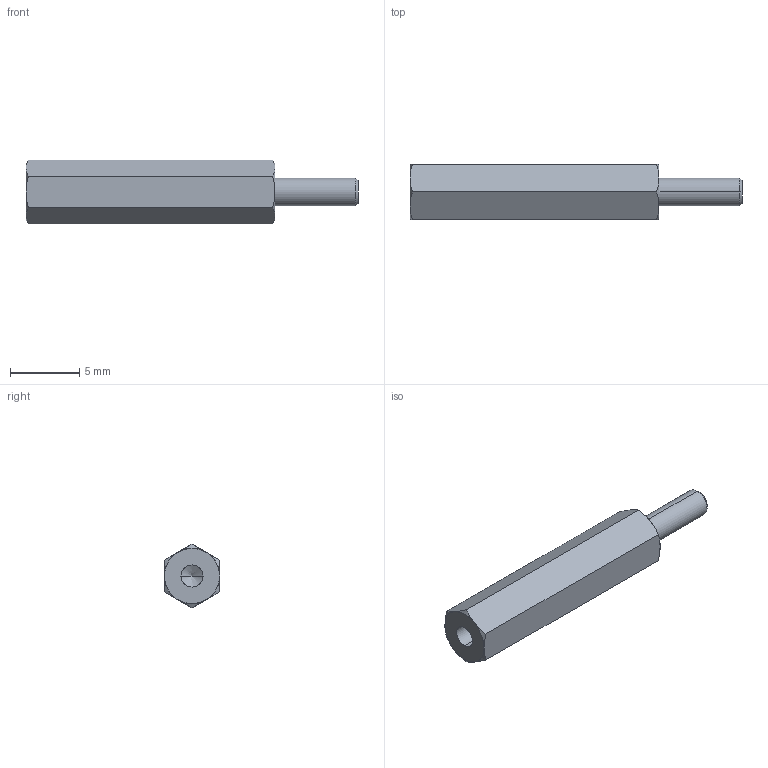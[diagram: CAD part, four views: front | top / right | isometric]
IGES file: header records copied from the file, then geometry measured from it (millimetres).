
Start section: SolidWorks IGES file using analytic representation for surfaces
Global section: file name: C:\Users\render1\Desktop\P0185_IGES\P0185.02-18.igs; native system: SolidWorks 2009; preprocessor: SolidWorks 2009; author: render1; date: 130627.111328; units: millimetre
Bounding box: 24 x 4 x 4.62 mm (x, y, z)
Surface area: 343.2 mm2 (no closed solid volume)
Topology: 0 solids, 0 shells, 29 faces, 292 edges, 290 vertices
Faces by surface type: revolution 20, bspline 9
